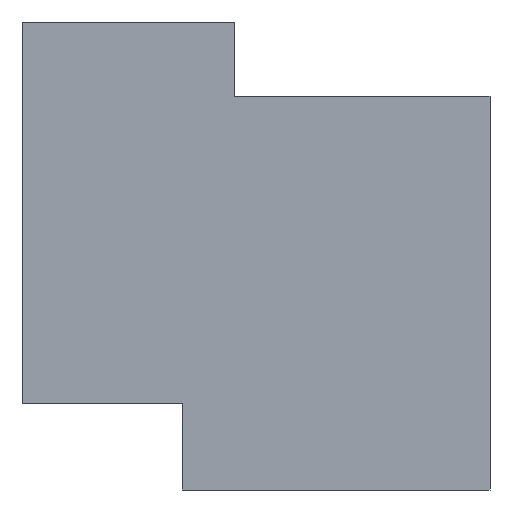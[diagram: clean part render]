
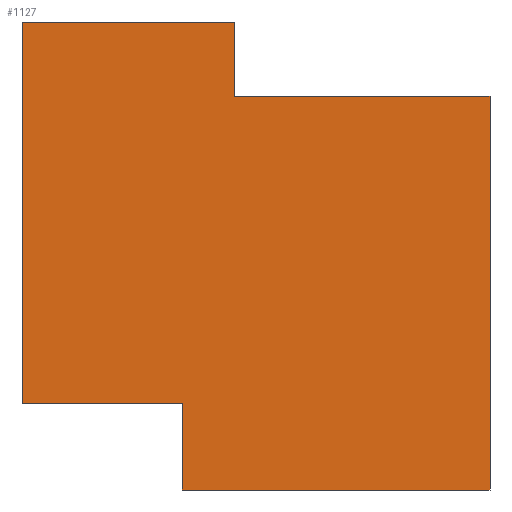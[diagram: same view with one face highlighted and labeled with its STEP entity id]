
A CAD part, front view. The second image highlights one B-rep face of the part: STEP entity #1127.
In plain terms, the highlighted planar face has unit normal (0, -1, 0).
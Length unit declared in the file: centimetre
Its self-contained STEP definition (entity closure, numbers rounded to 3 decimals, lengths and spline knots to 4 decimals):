
#12 = VERTEX_POINT ( 'NONE', #310 ) ;
#16 = CARTESIAN_POINT ( 'NONE',  ( 0., 0., 1000. ) ) ;
#46 = CARTESIAN_POINT ( 'NONE',  ( 1000., 0., 1000. ) ) ;
#82 = VERTEX_POINT ( 'NONE', #542 ) ;
#120 = VECTOR ( 'NONE', #162, 100. ) ;
#162 = DIRECTION ( 'NONE',  ( 1., 0., 0. ) ) ;
#164 = VERTEX_POINT ( 'NONE', #921 ) ;
#179 = CARTESIAN_POINT ( 'NONE',  ( 454.2552, 0., 841.5281 ) ) ;
#237 = CARTESIAN_POINT ( 'NONE',  ( 342.7643, 0., 184.7832 ) ) ;
#256 = DIRECTION ( 'NONE',  ( 1., 0., 0. ) ) ;
#283 = CARTESIAN_POINT ( 'NONE',  ( 454.2552, 0., 841.5281 ) ) ;
#310 = CARTESIAN_POINT ( 'NONE',  ( 342.7643, 0., 0. ) ) ;
#326 = EDGE_CURVE ( 'NONE', #82, #961, #791, .T. ) ;
#334 = DIRECTION ( 'NONE',  ( 0., 0., 1. ) ) ;
#335 = DIRECTION ( 'NONE',  ( 1., 0., 0. ) ) ;
#345 = LINE ( 'NONE', #924, #1227 ) ;
#350 = ORIENTED_EDGE ( 'NONE', *, *, #1106, .F. ) ;
#387 = VECTOR ( 'NONE', #390, 100. ) ;
#390 = DIRECTION ( 'NONE',  ( -1., 0., 0. ) ) ;
#418 = VECTOR ( 'NONE', #334, 100. ) ;
#504 = DIRECTION ( 'NONE',  ( 0., 0., -1. ) ) ;
#533 = PLANE ( 'NONE',  #871 ) ;
#537 = ORIENTED_EDGE ( 'NONE', *, *, #580, .F. ) ;
#542 = CARTESIAN_POINT ( 'NONE',  ( 0., 0., 1000. ) ) ;
#554 = VECTOR ( 'NONE', #504, 100. ) ;
#577 = LINE ( 'NONE', #179, #707 ) ;
#580 = EDGE_CURVE ( 'NONE', #823, #961, #1064, .T. ) ;
#622 = DIRECTION ( 'NONE',  ( 0., 0., -1. ) ) ;
#627 = LINE ( 'NONE', #46, #850 ) ;
#629 = FACE_OUTER_BOUND ( 'NONE', #1000, .T. ) ;
#645 = ORIENTED_EDGE ( 'NONE', *, *, #785, .F. ) ;
#648 = DIRECTION ( 'NONE',  ( 0., 1., 0. ) ) ;
#707 = VECTOR ( 'NONE', #868, 100. ) ;
#723 = CARTESIAN_POINT ( 'NONE',  ( 1000., 0., 841.5281 ) ) ;
#731 = LINE ( 'NONE', #1104, #120 ) ;
#737 = LINE ( 'NONE', #1225, #1205 ) ;
#785 = EDGE_CURVE ( 'NONE', #12, #823, #1198, .T. ) ;
#787 = VERTEX_POINT ( 'NONE', #723 ) ;
#791 = LINE ( 'NONE', #16, #554 ) ;
#816 = EDGE_CURVE ( 'NONE', #787, #164, #627, .T. ) ;
#823 = VERTEX_POINT ( 'NONE', #825 ) ;
#825 = CARTESIAN_POINT ( 'NONE',  ( 342.7643, 0., 184.7832 ) ) ;
#832 = CARTESIAN_POINT ( 'NONE',  ( 454.2552, 0., 1000. ) ) ;
#833 = CARTESIAN_POINT ( 'NONE',  ( 0., 0., 1000. ) ) ;
#850 = VECTOR ( 'NONE', #622, 100. ) ;
#851 = CARTESIAN_POINT ( 'NONE',  ( 0., 0., 184.7832 ) ) ;
#868 = DIRECTION ( 'NONE',  ( 0., 0., -1. ) ) ;
#871 = AXIS2_PLACEMENT_3D ( 'NONE', #833, #648, #1032 ) ;
#878 = VERTEX_POINT ( 'NONE', #832 ) ;
#921 = CARTESIAN_POINT ( 'NONE',  ( 1000., 0., 0. ) ) ;
#923 = ORIENTED_EDGE ( 'NONE', *, *, #326, .T. ) ;
#924 = CARTESIAN_POINT ( 'NONE',  ( 0., 0., 1000. ) ) ;
#951 = EDGE_CURVE ( 'NONE', #82, #878, #345, .T. ) ;
#957 = CARTESIAN_POINT ( 'NONE',  ( 342.7643, 0., 184.7832 ) ) ;
#961 = VERTEX_POINT ( 'NONE', #851 ) ;
#1000 = EDGE_LOOP ( 'NONE', ( #1147, #350, #1052, #1201, #923, #537, #645, #1216 ) ) ;
#1011 = EDGE_CURVE ( 'NONE', #878, #1036, #577, .T. ) ;
#1032 = DIRECTION ( 'NONE',  ( 0., 0., 1. ) ) ;
#1036 = VERTEX_POINT ( 'NONE', #283 ) ;
#1052 = ORIENTED_EDGE ( 'NONE', *, *, #1011, .F. ) ;
#1064 = LINE ( 'NONE', #957, #387 ) ;
#1104 = CARTESIAN_POINT ( 'NONE',  ( 0., 0., 0. ) ) ;
#1106 = EDGE_CURVE ( 'NONE', #1036, #787, #737, .T. ) ;
#1127 = ADVANCED_FACE ( 'NONE', ( #629 ), #533, .F. ) ;
#1134 = EDGE_CURVE ( 'NONE', #12, #164, #731, .T. ) ;
#1147 = ORIENTED_EDGE ( 'NONE', *, *, #816, .F. ) ;
#1198 = LINE ( 'NONE', #237, #418 ) ;
#1201 = ORIENTED_EDGE ( 'NONE', *, *, #951, .F. ) ;
#1205 = VECTOR ( 'NONE', #335, 100. ) ;
#1216 = ORIENTED_EDGE ( 'NONE', *, *, #1134, .T. ) ;
#1225 = CARTESIAN_POINT ( 'NONE',  ( 454.2552, 0., 841.5281 ) ) ;
#1227 = VECTOR ( 'NONE', #256, 100. ) ;
